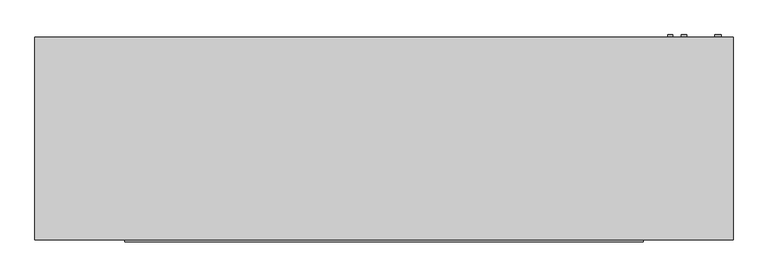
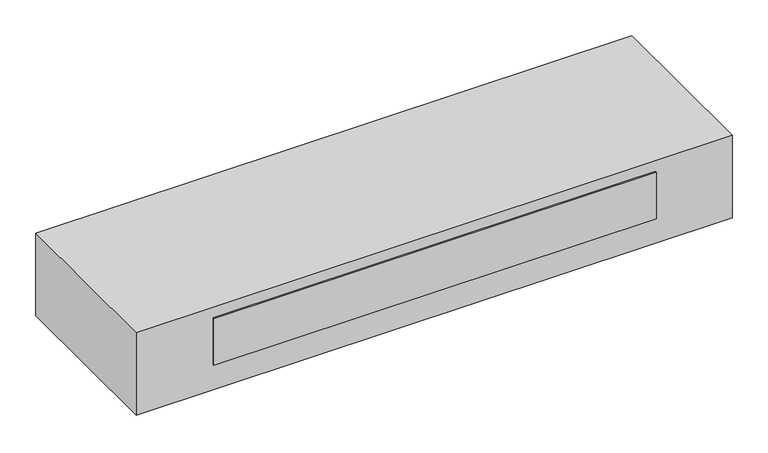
"""IFC4 building model written with IfcOpenShell, lengths in millimetres: proxy geometry, Exposed_Horizontal_Fan_Coil_Unit_-_42CGB_-_CARRIER_-_2-Pipe_Cool-EHeat_FS-BR_RH_2022 : Size 12 - 277v/60Hz/1Ph - 4 Row 10.0kW."""

from ifc_helpers import new_model, si_unit, point, frame, frame_2d, origin, place, context, project, spatial, polyline, circle_curve, trimmed, segment, composite_curve, outline, extrude, source, transform, mapped, element, save


def mechanical_equipment_d7bd8505(model_context):
    return source(origin(), model_context, "Body", "SweptSolid", [
        extrude(outline(composite_curve([segment(trimmed(circle_curve(frame_2d((-60.325, 1006.475)), 7.9375), [point((-60.325, 1014.4125))], [point((-60.325, 998.5375))], False, "CARTESIAN"), True, "CONTINUOUS"), segment(trimmed(circle_curve(frame_2d((-60.325, 1006.475)), 7.9375), [point((-60.325, 998.5375))], [point((-60.325, 1014.4125))], False, "CARTESIAN"), True, "CONTINUOUS")], self_intersect=False)), frame((0.0, 65.0875, 0.0), z_axis=(0.0, 1.0, 0.0), x_axis=(0.0, 0.0, 1.0)), (0.0, 0.0, 1.0), 6.35),
        extrude(outline(composite_curve([segment(trimmed(circle_curve(frame_2d((-95.25, 1047.75)), 7.9375), [point((-95.25, 1055.6875))], [point((-95.25, 1039.8125))], False, "CARTESIAN"), True, "CONTINUOUS"), segment(trimmed(circle_curve(frame_2d((-95.25, 1047.75)), 7.9375), [point((-95.25, 1039.8125))], [point((-95.25, 1055.6875))], False, "CARTESIAN"), True, "CONTINUOUS")], self_intersect=False)), frame((0.0, 65.0875, 0.0), z_axis=(0.0, 1.0, 0.0), x_axis=(0.0, 0.0, 1.0)), (0.0, 0.0, 1.0), 6.35),
        extrude(outline(composite_curve([segment(trimmed(circle_curve(frame_2d((-260.35, 1149.35)), 9.525), [point((-260.35, 1158.875))], [point((-260.35, 1139.825))], False, "CARTESIAN"), True, "CONTINUOUS"), segment(trimmed(circle_curve(frame_2d((-260.35, 1149.35)), 9.525), [point((-260.35, 1139.825))], [point((-260.35, 1158.875))], False, "CARTESIAN"), True, "CONTINUOUS")], self_intersect=False)), frame((0.0, 65.0875, 0.0), z_axis=(0.0, 1.0, 0.0), x_axis=(0.0, 0.0, 1.0)), (0.0, 0.0, 1.0), 6.35),
        extrude(outline(polyline([(-889.0, 65.0875), (1193.8, 65.0875), (1193.8, -541.3375), (-889.0, -541.3375), (-889.0, 65.0875)])), frame((0.0, 0.0, -304.8), z_axis=(0.0, 0.0, 1.0), x_axis=(1.0, 0.0, 0.0)), (0.0, 0.0, 1.0), 304.8),
        extrude(outline(polyline([(925.5125, -547.6875), (-620.7125, -547.6875), (-620.7125, -541.3375), (925.5125, -541.3375), (925.5125, -547.6875)])), frame((0.0, 0.0, -209.55), z_axis=(0.0, 0.0, 1.0), x_axis=(1.0, 0.0, 0.0)), (0.0, 0.0, 1.0), 171.45),
        extrude(outline(polyline([(952.5, -11.1125), (952.5, -265.1125), (-647.7, -265.1125), (-647.7, -11.1125), (952.5, -11.1125)])), frame((0.0, 0.0, -311.15), z_axis=(0.0, 0.0, 1.0), x_axis=(1.0, 0.0, 0.0)), (0.0, 0.0, 1.0), 6.35),
    ])


if __name__ == "__main__":
    model = new_model("IFC4")
    model_context = context("Model", 3, world=origin())
    ifc_project = project(units=[si_unit("LENGTHUNIT", "METRE", prefix="MILLI")], contexts=[model_context])
    site = spatial("IfcSite", under=ifc_project)
    building = spatial("IfcBuilding", under=site)
    placement = place(None, origin())
    mechanical_equipment_shape = mechanical_equipment_d7bd8505(model_context)
    element("IfcBuildingElementProxy", 1, Name="Exposed_Horizontal_Fan_Coil_Unit_-_42CGB_-_CARRIER_-_2-Pipe_Cool-EHeat_FS-BR_RH_2022 : Size 12 - 277v/60Hz/1Ph - 4 Row 10.0kW", ObjectType="Exposed_Horizontal_Fan_Coil_Unit_-_42CGB_-_CARRIER_-_2-Pipe_Cool-EHeat_FS-BR_RH_2022 : Size 12 - 277v/60Hz/1Ph - 4 Row 10.0kW", at=placement, inside=building, context=model_context, shape_type="MappedRepresentation", body=[
        mapped(mechanical_equipment_shape, transform((0.0, 0.0, 0.0), x_axis=(1.0, 0.0, 0.0), y_axis=(0.0, 1.0, 0.0), z_axis=(0.0, 0.0, 1.0))),
    ])
    save(model, "model.ifc")
